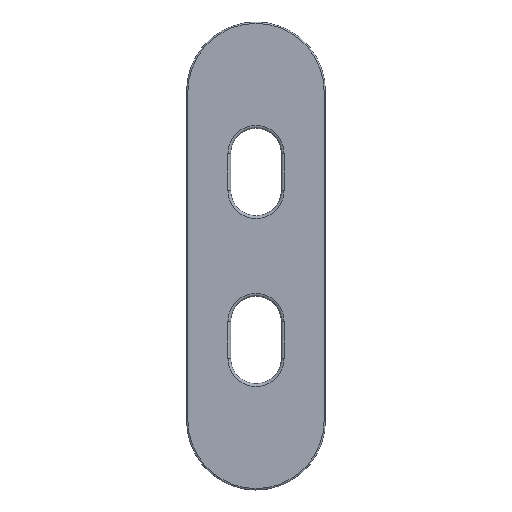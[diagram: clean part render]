
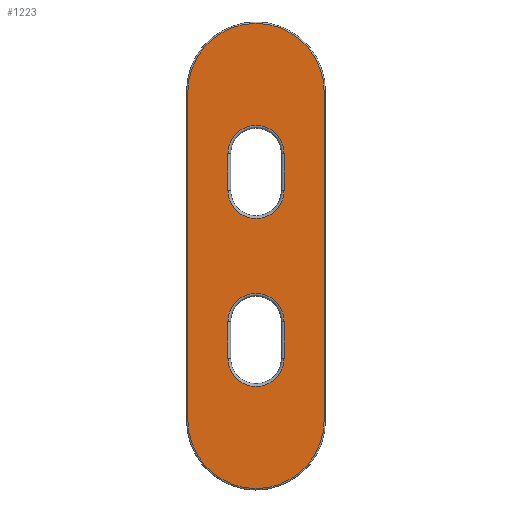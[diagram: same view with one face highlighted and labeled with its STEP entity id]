
A CAD part, top view. The second image highlights one B-rep face of the part: STEP entity #1223.
In plain terms, the highlighted planar face has unit normal (0, 0, 1).
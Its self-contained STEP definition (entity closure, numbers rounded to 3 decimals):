
#153=CARTESIAN_POINT('',(0.,21.5,1.2));
#154=DIRECTION('',(0.,0.,-1.));
#155=DIRECTION('',(-1.,0.,0.));
#156=AXIS2_PLACEMENT_3D('',#153,#154,#155);
#158=DIRECTION('',(0.,1.,0.));
#159=VECTOR('',#158,8.);
#160=CARTESIAN_POINT('',(-6.1,13.5,1.2));
#161=LINE('',#160,#159);
#162=CARTESIAN_POINT('',(0.,13.5,1.2));
#163=DIRECTION('',(0.,0.,-1.));
#164=DIRECTION('',(1.,0.,0.));
#165=AXIS2_PLACEMENT_3D('',#162,#163,#164);
#167=DIRECTION('',(0.,-1.,0.));
#168=VECTOR('',#167,8.);
#169=CARTESIAN_POINT('',(6.1,21.5,1.2));
#170=LINE('',#169,#168);
#171=DIRECTION('',(0.,1.,0.));
#172=VECTOR('',#171,8.);
#173=CARTESIAN_POINT('',(-6.1,50.,1.2));
#174=LINE('',#173,#172);
#175=CARTESIAN_POINT('',(0.,50.,1.2));
#176=DIRECTION('',(0.,0.,-1.));
#177=DIRECTION('',(1.,0.,0.));
#178=AXIS2_PLACEMENT_3D('',#175,#176,#177);
#180=DIRECTION('',(0.,-1.,0.));
#181=VECTOR('',#180,8.);
#182=CARTESIAN_POINT('',(6.1,58.,1.2));
#183=LINE('',#182,#181);
#184=CARTESIAN_POINT('',(0.,58.,1.2));
#185=DIRECTION('',(0.,0.,-1.));
#186=DIRECTION('',(-1.,0.,0.));
#187=AXIS2_PLACEMENT_3D('',#184,#185,#186);
#189=DIRECTION('',(0.,1.,0.));
#190=VECTOR('',#189,71.5);
#191=CARTESIAN_POINT('',(14.8,0.,1.2));
#192=LINE('',#191,#190);
#193=CARTESIAN_POINT('',(0.,0.,1.2));
#194=DIRECTION('',(0.,0.,1.));
#195=DIRECTION('',(-1.,0.,0.));
#196=AXIS2_PLACEMENT_3D('',#193,#194,#195);
#198=DIRECTION('',(0.,-1.,0.));
#199=VECTOR('',#198,71.5);
#200=CARTESIAN_POINT('',(-14.8,71.5,1.2));
#201=LINE('',#200,#199);
#202=CARTESIAN_POINT('',(0.,71.5,1.2));
#203=DIRECTION('',(0.,0.,1.));
#204=DIRECTION('',(1.,0.,0.));
#205=AXIS2_PLACEMENT_3D('',#202,#203,#204);
#890=CARTESIAN_POINT('',(-6.1,21.5,1.2));
#891=CARTESIAN_POINT('',(6.1,21.5,1.2));
#892=VERTEX_POINT('',#890);
#893=VERTEX_POINT('',#891);
#898=CARTESIAN_POINT('',(6.1,13.5,1.2));
#899=VERTEX_POINT('',#898);
#902=CARTESIAN_POINT('',(-6.1,13.5,1.2));
#903=VERTEX_POINT('',#902);
#906=CARTESIAN_POINT('',(-6.1,50.,1.2));
#907=CARTESIAN_POINT('',(-6.1,58.,1.2));
#908=VERTEX_POINT('',#906);
#909=VERTEX_POINT('',#907);
#914=CARTESIAN_POINT('',(6.1,58.,1.2));
#915=VERTEX_POINT('',#914);
#918=CARTESIAN_POINT('',(6.1,50.,1.2));
#919=VERTEX_POINT('',#918);
#938=CARTESIAN_POINT('',(14.8,0.,1.2));
#939=CARTESIAN_POINT('',(14.8,71.5,1.2));
#940=VERTEX_POINT('',#938);
#941=VERTEX_POINT('',#939);
#946=CARTESIAN_POINT('',(-14.8,71.5,1.2));
#947=VERTEX_POINT('',#946);
#950=CARTESIAN_POINT('',(-14.8,0.,1.2));
#951=VERTEX_POINT('',#950);
#1189=CARTESIAN_POINT('',(0.,0.,1.2));
#1190=DIRECTION('',(0.,0.,1.));
#1191=DIRECTION('',(1.,0.,0.));
#1192=AXIS2_PLACEMENT_3D('',#1189,#1190,#1191);
#1193=PLANE('',#1192);
#1194=ORIENTED_EDGE('',*,*,#1179,.F.);
#1196=ORIENTED_EDGE('',*,*,#1195,.F.);
#1198=ORIENTED_EDGE('',*,*,#1197,.F.);
#1200=ORIENTED_EDGE('',*,*,#1199,.F.);
#1201=EDGE_LOOP('',(#1194,#1196,#1198,#1200));
#1202=FACE_OUTER_BOUND('',#1201,.F.);
#1204=ORIENTED_EDGE('',*,*,#1203,.F.);
#1206=ORIENTED_EDGE('',*,*,#1205,.F.);
#1208=ORIENTED_EDGE('',*,*,#1207,.F.);
#1210=ORIENTED_EDGE('',*,*,#1209,.F.);
#1211=EDGE_LOOP('',(#1204,#1206,#1208,#1210));
#1212=FACE_BOUND('',#1211,.F.);
#1214=ORIENTED_EDGE('',*,*,#1213,.F.);
#1216=ORIENTED_EDGE('',*,*,#1215,.F.);
#1218=ORIENTED_EDGE('',*,*,#1217,.F.);
#1220=ORIENTED_EDGE('',*,*,#1219,.F.);
#1221=EDGE_LOOP('',(#1214,#1216,#1218,#1220));
#1222=FACE_BOUND('',#1221,.F.);
#1223=ADVANCED_FACE('',(#1202,#1212,#1222),#1193,.T.);
#157=CIRCLE('',#156,6.1);
#166=CIRCLE('',#165,6.1);
#179=CIRCLE('',#178,6.1);
#188=CIRCLE('',#187,6.1);
#197=CIRCLE('',#196,14.8);
#206=CIRCLE('',#205,14.8);
#1179=EDGE_CURVE('',#940,#941,#192,.T.);
#1195=EDGE_CURVE('',#951,#940,#197,.T.);
#1197=EDGE_CURVE('',#947,#951,#201,.T.);
#1199=EDGE_CURVE('',#941,#947,#206,.T.);
#1203=EDGE_CURVE('',#908,#909,#174,.T.);
#1205=EDGE_CURVE('',#919,#908,#179,.T.);
#1207=EDGE_CURVE('',#915,#919,#183,.T.);
#1209=EDGE_CURVE('',#909,#915,#188,.T.);
#1213=EDGE_CURVE('',#892,#893,#157,.T.);
#1215=EDGE_CURVE('',#903,#892,#161,.T.);
#1217=EDGE_CURVE('',#899,#903,#166,.T.);
#1219=EDGE_CURVE('',#893,#899,#170,.T.);
